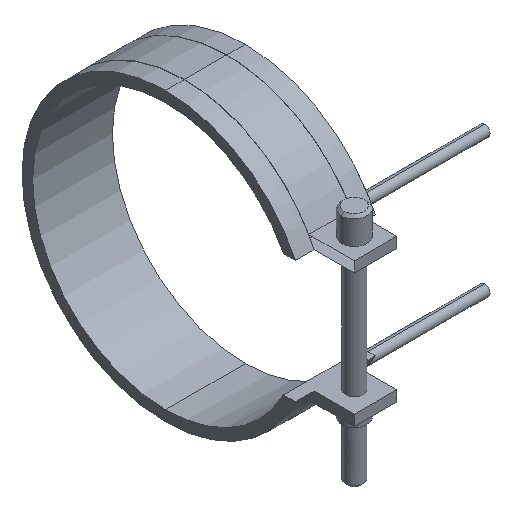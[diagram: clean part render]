
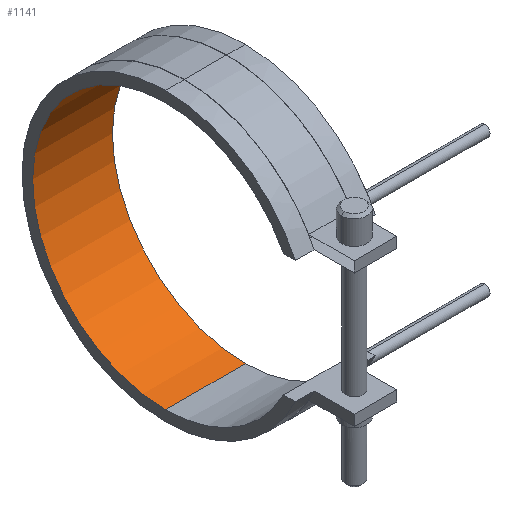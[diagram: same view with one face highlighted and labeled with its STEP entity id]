
A CAD part, isometric view. The second image highlights one B-rep face of the part: STEP entity #1141.
In plain terms, the highlighted cylindrical face has radius 50 mm (diameter 100 mm), a partial arc.
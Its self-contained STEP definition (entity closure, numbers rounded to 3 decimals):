
#822=CARTESIAN_POINT('Vertex',(-15.,0.,-50.)) ;
#829=CARTESIAN_POINT('Vertex',(15.,0.,-50.)) ;
#832=CARTESIAN_POINT('Line Origine',(15.,0.,-50.)) ;
#850=CARTESIAN_POINT('Axis2P3D Location',(-15.,0.,0.)) ;
#854=CARTESIAN_POINT('Vertex',(-15.,0.,50.)) ;
#911=CARTESIAN_POINT('Vertex',(15.,0.,50.)) ;
#921=CARTESIAN_POINT('Line Origine',(15.,0.,50.)) ;
#1012=CARTESIAN_POINT('Axis2P3D Location',(15.,0.,0.)) ;
#1130=CARTESIAN_POINT('Axis2P3D Location',(15.,0.,0.)) ;
#833=DIRECTION('Vector Direction',(1.,0.,0.)) ;
#851=DIRECTION('Axis2P3D Direction',(1.,0.,0.)) ;
#922=DIRECTION('Vector Direction',(1.,0.,0.)) ;
#1013=DIRECTION('Axis2P3D Direction',(1.,0.,0.)) ;
#1131=DIRECTION('Axis2P3D Direction',(1.,0.,-0.)) ;
#1132=DIRECTION('Axis2P3D XDirection',(0.,0.,-1.)) ;
#852=AXIS2_PLACEMENT_3D('Circle Axis2P3D',#850,#851,$) ;
#1014=AXIS2_PLACEMENT_3D('Circle Axis2P3D',#1012,#1013,$) ;
#1133=AXIS2_PLACEMENT_3D('Cylinder Axis2P3D',#1130,#1131,#1132) ;
#1136=ORIENTED_EDGE('',*,*,#1016,.T.) ;
#1137=ORIENTED_EDGE('',*,*,#925,.T.) ;
#1138=ORIENTED_EDGE('',*,*,#856,.F.) ;
#1139=ORIENTED_EDGE('',*,*,#836,.T.) ;
#834=VECTOR('Line Direction',#833,1.) ;
#923=VECTOR('Line Direction',#922,1.) ;
#1141=ADVANCED_FACE('14100030',(#1140),#1134,.F.) ;
#853=CIRCLE('generated circle',#852,50.) ;
#1015=CIRCLE('generated circle',#1014,50.) ;
#1134=CYLINDRICAL_SURFACE('generated cylinder',#1133,50.) ;
#836=EDGE_CURVE('',#823,#830,#835,.T.) ;
#856=EDGE_CURVE('',#823,#855,#853,.T.) ;
#925=EDGE_CURVE('',#912,#855,#924,.F.) ;
#1016=EDGE_CURVE('',#830,#912,#1015,.T.) ;
#1135=EDGE_LOOP('',(#1136,#1137,#1138,#1139)) ;
#1140=FACE_OUTER_BOUND('',#1135,.T.) ;
#835=LINE('Line',#832,#834) ;
#924=LINE('Line',#921,#923) ;
#823=VERTEX_POINT('',#822) ;
#830=VERTEX_POINT('',#829) ;
#855=VERTEX_POINT('',#854) ;
#912=VERTEX_POINT('',#911) ;
